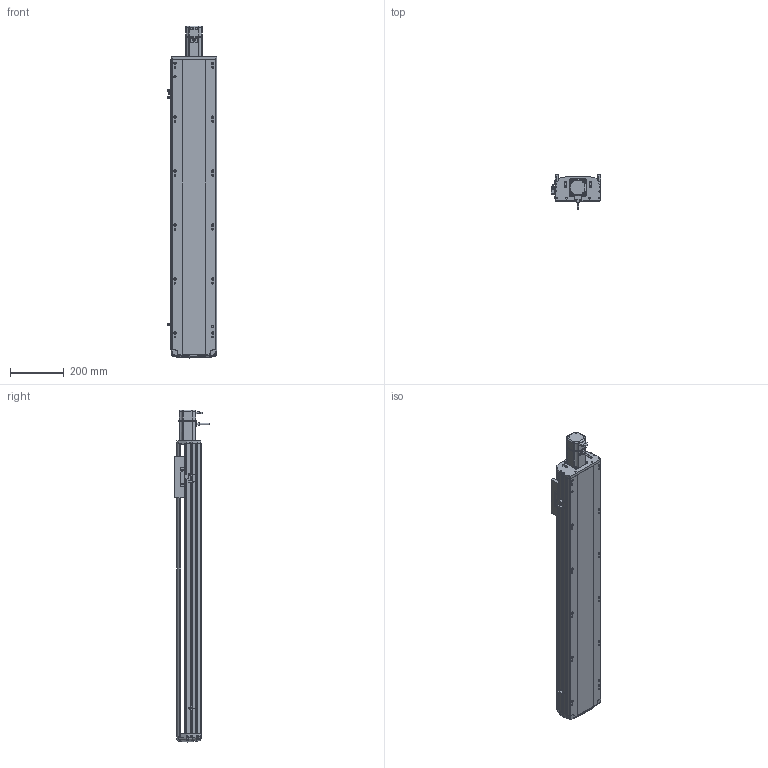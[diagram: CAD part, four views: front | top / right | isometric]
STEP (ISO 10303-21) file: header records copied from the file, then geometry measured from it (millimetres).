
FILE_DESCRIPTION (( 'STEP AP214' ), '1' );
FILE_NAME ('RTH17-XX-850-E-M40-C4.STEP', '2025-10-24T05:42:51', ( '' ), ( '' ), 'SwSTEP 2.0', 'SolidWorks 2018', '' );
FILE_SCHEMA (( 'AUTOMOTIVE_DESIGN' ));
Length unit declared in the file: millimetre
Products named in the file (9): N_RTH-BL-012 感应片(外置)^RTH17-XX-XX-E-M40-C4（方程式）; N_OMRON EE-SX672 換覜ん^RTH17-XX-XX-E-M40-C4ㄗ源最宒ㄘ; N_M40^RTH17-XX-XX-E-M40-C4（方程式）; N_RTH17-E-004丝杆螺母连接座^RTH17-XX-XX-E-M40-C4（方程式）; N_RTH17-GY-001P^RTH17-XX-XX-E-M40-C4（方程式）; N_RTH17-E-007上盖^RTH17-XX-XX-E-M40-C4（方程式）; N_RTH17-E-011底座^RTH17-XX-XX-E-M40-C4（方程式）; N_RTH17-E-008-P40电机板^RTH17-XX-XX-E-M40-C4（方程式）; RTH17-XX-850-E-M40-C4
Assembly tree (10 placements, depth 2):
  RTH17-XX-850-E-M40-C4
    N_RTH17-E-011底座^RTH17-XX-XX-E-M40-C4（方程式）
    N_RTH17-E-007上盖^RTH17-XX-XX-E-M40-C4（方程式）
    N_RTH17-E-008-P40电机板^RTH17-XX-XX-E-M40-C4（方程式）
    N_OMRON EE-SX672 換覜ん^RTH17-XX-XX-E-M40-C4ㄗ源最宒ㄘ  x3
    N_RTH-BL-012 感应片(外置)^RTH17-XX-XX-E-M40-C4（方程式）
    N_RTH17-E-004丝杆螺母连接座^RTH17-XX-XX-E-M40-C4（方程式）
    N_RTH17-GY-001P^RTH17-XX-XX-E-M40-C4（方程式）
    N_M40^RTH17-XX-XX-E-M40-C4（方程式）
Bounding box: 183.5 x 127 x 1230.69 mm (x, y, z)
Volume: 8808645.8 mm3; surface area: 1177464.1 mm2
Topology: 9 solids, 11 shells, 1681 faces, 4711 edges, 3074 vertices
Faces by surface type: plane 829, cylinder 485, bspline 330, cone 28, torus 9
Entity records: 49565 total; most frequent: CARTESIAN_POINT 19778, ORIENTED_EDGE 6446, DIRECTION 5355, EDGE_CURVE 3227, VERTEX_POINT 2110, VECTOR 1795, LINE 1795, AXIS2_PLACEMENT_3D 1780
